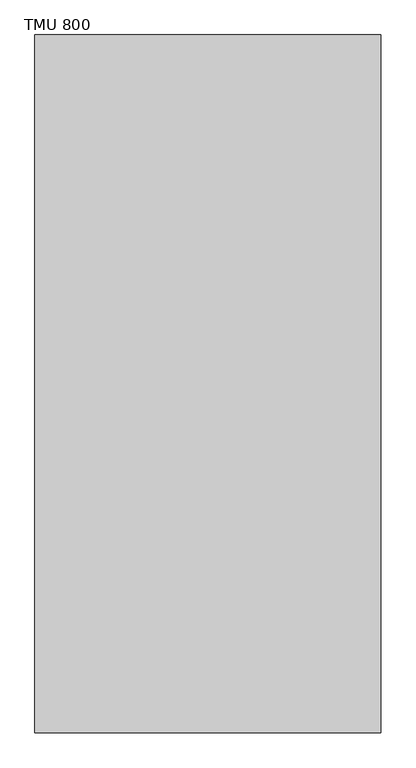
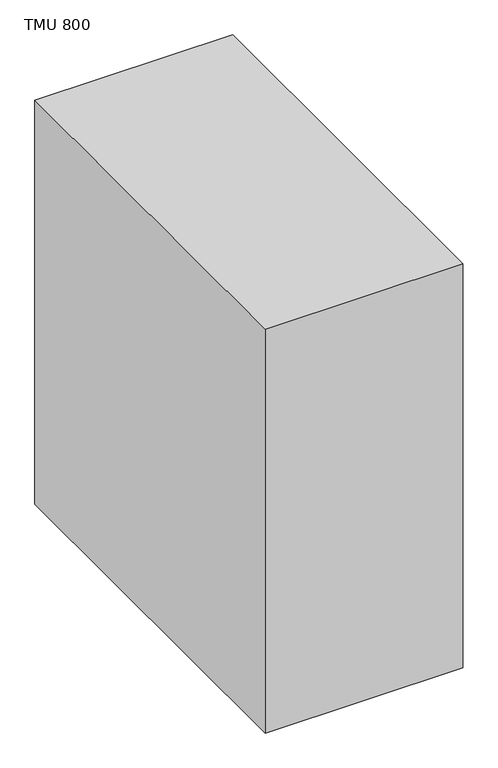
"""IFC4 building model written with IfcOpenShell, lengths in millimetres: unitary equipment geometry, AIC_StratifiedBufferTank_TMU_500-800_r00 : TMU 800."""

from ifc_helpers import new_model, si_unit, point, frame, frame_2d, origin, origin_with_axes, place, context, project, spatial, polyline, circle_curve, trimmed, segment, composite_curve, outline, extrude, source, transform, mapped, element, save
from ifc_brep_helpers import plane_surface, cylinder_surface, advanced_brep


def tmu_800_315551bb(model_context):
    return source(origin(), model_context, "Body", "SolidModel", [
        extrude(outline(polyline([(595.0, -1321.0), (-595.0, -1321.0), (-595.0, 1081.0), (595.0, 1081.0), (595.0, -1321.0)])), origin_with_axes(), (0.0, 0.0, 1.0), 2571.0),
        advanced_brep(
        [(-445.0, 581.0, 2171.0), (-495.0, 531.0, 2171.0), (-495.0, 521.0, 2171.0), (-475.0, 521.0, 2171.0), (-475.0, 516.5, 2171.0), (-495.0, 516.5, 2171.0), (-495.0, -516.5, 2171.0), (-475.0, -516.5, 2171.0), (-475.0, -521.0, 2171.0), (-495.0, -521.0, 2171.0), (-495.0, -531.0, 2171.0), (-445.0, -581.0, 2171.0), (-435.0, -581.0, 2171.0), (-435.0, -561.0, 2171.0), (-430.5, -561.0, 2171.0), (-430.5, -581.0, 2171.0), (430.5, -581.0, 2171.0), (430.5, -561.0, 2171.0), (435.0, -561.0, 2171.0), (435.0, -581.0, 2171.0), (445.0, -581.0, 2171.0), (495.0, -531.0, 2171.0), (495.0, -521.0, 2171.0), (475.0, -521.0, 2171.0), (475.0, -516.5, 2171.0), (495.0, -516.5, 2171.0), (495.0, 516.5, 2171.0), (475.0, 516.5, 2171.0), (475.0, 521.0, 2171.0), (495.0, 521.0, 2171.0), (495.0, 531.0, 2171.0), (445.0, 581.0, 2171.0), (435.0, 581.0, 2171.0), (435.0, 561.0, 2171.0), (430.5, 561.0, 2171.0), (430.5, 581.0, 2171.0), (-430.5, 581.0, 2171.0), (-430.5, 561.0, 2171.0), (-435.0, 561.0, 2171.0), (-435.0, 581.0, 2171.0), (-487.5, 533.5, 3.0), (-447.5, 573.5, 3.0), (-442.0, 573.5, 3.0), (-442.0, 549.0, 3.0), (-407.2040816, 549.0, 3.0), (-407.2040816, -550.0, 3.0), (-28.494898, -550.0, 3.0), (-28.494898, 549.0, 3.0), (28.494898, 549.0, 3.0), (28.494898, -550.0, 3.0), (407.2040816, -550.0, 3.0), (407.2040816, 549.0, 3.0), (442.0, 549.0, 3.0), (442.0, 573.5, 3.0), (447.5, 573.5, 3.0), (487.5, 533.5, 3.0), (487.5, -533.5, 3.0), (447.5, -573.5, 3.0), (-447.5, -573.5, 3.0), (-487.5, -533.5, 3.0), (442.0, 581.0, 133.0), (442.0, 581.0, 98.0), (-442.0, 581.0, 98.0), (-442.0, 581.0, 133.0), (-445.0, 581.0, 133.0), (-435.0, 581.0, 133.0), (-430.5, 581.0, 133.0), (430.5, 581.0, 133.0), (435.0, 581.0, 133.0), (445.0, 581.0, 133.0), (-495.0, 516.5, 1639.0), (-495.0, -516.5, 1639.0), (-495.0, 531.0, 133.0), (-495.0, 521.0, 133.0), (-495.0, -531.0, 133.0), (-495.0, -521.0, 133.0), (-495.0, 516.5, 133.0), (-495.0, -516.5, 133.0), (-495.0, -516.5, 1634.0), (-495.0, 516.5, 1634.0), (-430.5, -581.0, 1817.0), (430.5, -581.0, 1817.0), (-445.0, -581.0, 133.0), (-435.0, -581.0, 133.0), (445.0, -581.0, 133.0), (435.0, -581.0, 133.0), (-430.5, -581.0, 133.0), (430.5, -581.0, 133.0), (430.5, -581.0, 1359.0), (-430.5, -581.0, 1359.0), (-430.5, -581.0, 1812.0), (-430.5, -581.0, 1389.0), (430.5, -581.0, 1389.0), (430.5, -581.0, 1812.0), (495.0, -516.5, 1639.0), (495.0, 516.5, 1639.0), (495.0, 531.0, 133.0), (495.0, 521.0, 133.0), (495.0, -531.0, 133.0), (495.0, -521.0, 133.0), (495.0, -516.5, 133.0), (495.0, 516.5, 133.0), (495.0, 516.5, 1634.0), (495.0, -516.5, 1634.0), (-487.5, 516.5, 133.0), (-487.5, -516.5, 133.0), (-430.5, -573.5, 133.0), (430.5, -573.5, 133.0), (487.5, -516.5, 133.0), (487.5, 516.5, 133.0), (-487.5, -533.5, 133.0), (-447.5, -573.5, 133.0), (-435.0, -573.5, 133.0), (-487.5, -521.0, 133.0), (447.5, -573.5, 133.0), (487.5, -533.5, 133.0), (487.5, -521.0, 133.0), (435.0, -573.5, 133.0), (487.5, 533.5, 133.0), (447.5, 573.5, 133.0), (442.0, 573.5, 133.0), (487.5, 521.0, 133.0), (-442.0, 573.5, 133.0), (-447.5, 573.5, 133.0), (-487.5, 533.5, 133.0), (-487.5, 521.0, 133.0), (-442.0, 573.5, 98.0), (442.0, 573.5, 98.0), (-442.0, 549.0, 98.0), (442.0, 549.0, 98.0), (382.0, 549.0, 98.0), (382.0, -550.0, 98.0), (60.0, -550.0, 98.0), (60.0, 549.0, 98.0), (-60.0, 549.0, 98.0), (-60.0, -550.0, 98.0), (-382.0, -550.0, 98.0), (-382.0, 549.0, 98.0), (-435.0, 561.0, 133.0), (-430.5, 561.0, 133.0), (-475.0, 516.5, 133.0), (-475.0, 521.0, 133.0), (430.5, 561.0, 133.0), (435.0, 561.0, 133.0), (475.0, 521.0, 133.0), (475.0, 516.5, 133.0), (-475.0, -521.0, 133.0), (-475.0, -516.5, 133.0), (-430.5, -561.0, 133.0), (-435.0, -561.0, 133.0), (475.0, -516.5, 133.0), (475.0, -521.0, 133.0), (435.0, -561.0, 133.0), (430.5, -561.0, 133.0), (-475.0, 516.5, 1634.0), (-475.0, -516.5, 1634.0), (-475.0, -516.5, 1639.0), (-475.0, 516.5, 1639.0), (475.0, 516.5, 1639.0), (475.0, -516.5, 1639.0), (475.0, -516.5, 1634.0), (475.0, 516.5, 1634.0), (-430.5, -578.0, 1359.0), (-430.5, -578.0, 1389.0), (-430.5, -578.0, 1812.0), (-430.5, -578.0, 1817.0), (430.5, -578.0, 1817.0), (430.5, -578.0, 1812.0), (430.5, -578.0, 1389.0), (430.5, -578.0, 1359.0)],
        [
            (0, 1, circle_curve(frame((-445.0, 531.0, 2171.0), z_axis=(0.0, 0.0, 1.0), x_axis=(-1.0, 0.0, 0.0)), 50.0)),
            (1, 2),
            (2, 3),
            (3, 4),
            (4, 5),
            (5, 6),
            (6, 7),
            (7, 8),
            (8, 9),
            (9, 10),
            (10, 11, circle_curve(frame((-445.0, -531.0, 2171.0), z_axis=(0.0, 0.0, 1.0), x_axis=(-1.0, 0.0, 0.0)), 50.0)),
            (11, 12),
            (12, 13),
            (13, 14),
            (14, 15),
            (15, 16),
            (16, 17),
            (17, 18),
            (18, 19),
            (19, 20),
            (20, 21, circle_curve(frame((445.0, -531.0, 2171.0), z_axis=(0.0, 0.0, 1.0), x_axis=(-1.0, 0.0, 0.0)), 50.0)),
            (21, 22),
            (22, 23),
            (23, 24),
            (24, 25),
            (25, 26),
            (26, 27),
            (27, 28),
            (28, 29),
            (29, 30),
            (30, 31, circle_curve(frame((445.0, 531.0, 2171.0), z_axis=(0.0, 0.0, 1.0), x_axis=(-1.0, 0.0, 0.0)), 50.0)),
            (31, 32),
            (32, 33),
            (33, 34),
            (34, 35),
            (35, 36),
            (36, 37),
            (37, 38),
            (38, 39),
            (39, 0),
            (40, 41, circle_curve(frame((-447.5, 533.5, 3.0), z_axis=(0.0, 0.0, -1.0), x_axis=(1.0, 0.0, 0.0)), 40.0)),
            (41, 42),
            (42, 43),
            (43, 44),
            (44, 45),
            (45, 46),
            (46, 47),
            (47, 48),
            (48, 49),
            (49, 50),
            (50, 51),
            (51, 52),
            (52, 53),
            (53, 54),
            (54, 55, circle_curve(frame((447.5, 533.5, 3.0), z_axis=(0.0, 0.0, -1.0), x_axis=(1.0, 0.0, 0.0)), 40.0)),
            (55, 56),
            (56, 57, circle_curve(frame((447.5, -533.5, 3.0), z_axis=(0.0, 0.0, -1.0), x_axis=(1.0, 0.0, 0.0)), 40.0)),
            (57, 58),
            (58, 59, circle_curve(frame((-447.5, -533.5, 3.0), z_axis=(0.0, 0.0, -1.0), x_axis=(1.0, 0.0, 0.0)), 40.0)),
            (59, 40),
            (60, 61),
            (61, 62),
            (62, 63),
            (63, 64),
            (64, 0),
            (39, 65),
            (65, 66),
            (66, 36),
            (35, 67),
            (67, 68),
            (68, 32),
            (31, 69),
            (69, 60),
            (5, 70),
            (70, 71),
            (71, 6),
            (1, 72),
            (72, 73),
            (73, 2),
            (74, 10),
            (9, 75),
            (75, 74),
            (76, 77),
            (77, 78),
            (78, 79),
            (79, 76),
            (15, 80),
            (80, 81),
            (81, 16),
            (11, 82),
            (82, 83),
            (83, 12),
            (84, 20),
            (19, 85),
            (85, 84),
            (86, 87),
            (87, 88),
            (88, 89),
            (89, 86),
            (90, 91),
            (91, 92),
            (92, 93),
            (93, 90),
            (25, 94),
            (94, 95),
            (95, 26),
            (96, 30),
            (29, 97),
            (97, 96),
            (21, 98),
            (98, 99),
            (99, 22),
            (100, 101),
            (101, 102),
            (102, 103),
            (103, 100),
            (76, 104),
            (104, 105),
            (105, 77),
            (86, 106),
            (106, 107),
            (107, 87),
            (100, 108),
            (108, 109),
            (109, 101),
            (110, 111, circle_curve(frame((-447.5, -533.5, 133.0), z_axis=(0.0, 0.0, 1.0), x_axis=(1.0, 0.0, 0.0)), 40.0)),
            (111, 112),
            (112, 83),
            (82, 74, circle_curve(frame((-445.0, -531.0, 133.0), z_axis=(0.0, 0.0, -1.0), x_axis=(-1.0, 0.0, 0.0)), 50.0)),
            (75, 113),
            (113, 110),
            (114, 115, circle_curve(frame((447.5, -533.5, 133.0), z_axis=(0.0, 0.0, 1.0), x_axis=(1.0, 0.0, 0.0)), 40.0)),
            (115, 116),
            (116, 99),
            (98, 84, circle_curve(frame((445.0, -531.0, 133.0), z_axis=(0.0, 0.0, -1.0), x_axis=(-1.0, 0.0, 0.0)), 50.0)),
            (85, 117),
            (117, 114),
            (118, 119, circle_curve(frame((447.5, 533.5, 133.0), z_axis=(0.0, 0.0, 1.0), x_axis=(1.0, 0.0, 0.0)), 40.0)),
            (119, 120),
            (120, 60),
            (69, 96, circle_curve(frame((445.0, 531.0, 133.0), z_axis=(0.0, 0.0, -1.0), x_axis=(-1.0, 0.0, 0.0)), 50.0)),
            (97, 121),
            (121, 118),
            (63, 122),
            (122, 123),
            (123, 124, circle_curve(frame((-447.5, 533.5, 133.0), z_axis=(0.0, 0.0, 1.0), x_axis=(1.0, 0.0, 0.0)), 40.0)),
            (124, 125),
            (125, 73),
            (72, 64, circle_curve(frame((-445.0, 531.0, 133.0), z_axis=(0.0, 0.0, -1.0), x_axis=(-1.0, 0.0, 0.0)), 50.0)),
            (123, 41),
            (40, 124),
            (59, 110),
            (113, 105),
            (104, 125),
            (58, 111),
            (57, 114),
            (117, 107),
            (106, 112),
            (56, 115),
            (55, 118),
            (121, 109),
            (108, 116),
            (54, 119),
            (122, 126),
            (126, 42),
            (62, 126),
            (120, 127),
            (127, 61),
            (53, 127),
            (128, 126),
            (127, 129),
            (129, 130),
            (130, 131),
            (131, 132),
            (132, 133),
            (133, 134),
            (134, 135),
            (135, 136),
            (136, 137),
            (137, 128),
            (128, 43),
            (47, 134),
            (133, 48),
            (137, 44),
            (129, 52),
            (51, 130),
            (131, 50),
            (49, 132),
            (135, 46),
            (45, 136),
            (65, 138),
            (138, 139),
            (139, 66),
            (140, 141),
            (141, 125),
            (104, 140),
            (67, 142),
            (142, 143),
            (143, 68),
            (144, 145),
            (145, 109),
            (121, 144),
            (146, 147),
            (147, 105),
            (113, 146),
            (148, 149),
            (149, 112),
            (106, 148),
            (150, 151),
            (151, 116),
            (108, 150),
            (152, 153),
            (153, 107),
            (117, 152),
            (38, 138),
            (37, 139),
            (140, 154),
            (154, 155),
            (155, 147),
            (146, 8),
            (7, 156),
            (156, 157),
            (157, 4),
            (3, 141),
            (157, 70),
            (79, 154),
            (34, 142),
            (33, 143),
            (144, 28),
            (27, 158),
            (158, 159),
            (159, 24),
            (23, 151),
            (150, 160),
            (160, 161),
            (161, 145),
            (95, 158),
            (161, 102),
            (71, 156),
            (155, 78),
            (14, 148),
            (89, 162),
            (162, 163),
            (163, 91),
            (90, 164),
            (164, 165),
            (165, 80),
            (13, 149),
            (159, 94),
            (103, 160),
            (18, 152),
            (17, 153),
            (81, 166),
            (166, 167),
            (167, 93),
            (92, 168),
            (168, 169),
            (169, 88),
            (168, 163),
            (162, 169),
            (166, 165),
            (164, 167),
        ],
        [
            plane_surface(frame((-495.0, 581.0, 2171.0), z_axis=(0.0, 0.0, 1.0), x_axis=(-1.0, 0.0, 0.0))),
            plane_surface(frame((-495.0, 581.0, 3.0), z_axis=(0.0, 0.0, -1.0), x_axis=(1.0, 0.0, 0.0))),
            plane_surface(frame((495.0, 581.0, 2171.0), z_axis=(0.0, 1.0, 0.0), x_axis=(0.0, 0.0, -1.0))),
            plane_surface(frame((-495.0, 581.0, 2171.0), z_axis=(-1.0, 0.0, 0.0), x_axis=(0.0, 0.0, -1.0))),
            plane_surface(frame((-495.0, -581.0, 2171.0), z_axis=(0.0, -1.0, 0.0), x_axis=(0.0, 0.0, -1.0))),
            plane_surface(frame((495.0, -581.0, 2171.0), z_axis=(1.0, 0.0, 0.0), x_axis=(0.0, 0.0, -1.0))),
            plane_surface(frame((-407.5, 533.5, 133.0), z_axis=(0.0, 0.0, -1.0), x_axis=(0.0, -1.0, 0.0))),
            cylinder_surface(frame((-447.5, 533.5, 0.0), z_axis=(0.0, 0.0, -1.0), x_axis=(1.0, 0.0, 0.0)), 40.0),
            plane_surface(frame((-487.5, -533.5, 133.0), z_axis=(-1.0, 0.0, 0.0), x_axis=(0.0, 0.0, -1.0))),
            cylinder_surface(frame((-447.5, -533.5, 0.0), z_axis=(0.0, 0.0, -1.0), x_axis=(1.0, 0.0, 0.0)), 40.0),
            plane_surface(frame((447.5, -573.5, 133.0), z_axis=(0.0, -1.0, 0.0), x_axis=(0.0, 0.0, -1.0))),
            cylinder_surface(frame((447.5, -533.5, 0.0), z_axis=(0.0, 0.0, -1.0), x_axis=(1.0, 0.0, 0.0)), 40.0),
            plane_surface(frame((487.5, 533.5, 133.0), z_axis=(1.0, 0.0, 0.0), x_axis=(0.0, 0.0, -1.0))),
            cylinder_surface(frame((447.5, 533.5, 0.0), z_axis=(0.0, 0.0, -1.0), x_axis=(1.0, 0.0, 0.0)), 40.0),
            plane_surface(frame((-447.5, 573.5, 133.0), z_axis=(-2.879442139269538e-12, 1.0, 0.0), x_axis=(0.0, 0.0, -1.0))),
            plane_surface(frame((-442.0, 573.5, 133.0), z_axis=(-1.0, 0.0, 0.0), x_axis=(0.0, 0.0, -1.0))),
            plane_surface(frame((442.0, 581.0, 133.0), z_axis=(1.0, 0.0, 0.0), x_axis=(0.0, 0.0, -1.0))),
            plane_surface(frame((442.0, 573.5, 133.0), z_axis=(2.37492449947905e-12, 1.0, 0.0), x_axis=(0.0, 0.0, -1.0))),
            plane_surface(frame((-442.0, 581.0, 98.0), z_axis=(0.0, 0.0, -1.0), x_axis=(-1.0, 0.0, 0.0))),
            plane_surface(frame((-442.0, 581.0, 98.0), z_axis=(1.0, 0.0, 0.0), x_axis=(0.0, 0.0, -1.0))),
            plane_surface(frame((-442.0, 549.0, 98.0), z_axis=(0.0, 1.0, 0.0), x_axis=(0.0, 0.0, -1.0))),
            plane_surface(frame((442.0, 549.0, 98.0), z_axis=(-1.0, 0.0, 0.0), x_axis=(0.0, 0.0, -1.0))),
            plane_surface(frame((408.0, -550.0, 0.0), z_axis=(0.0, 1.0, 0.0), x_axis=(-0.2564346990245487, 0.0, 0.966561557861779))),
            plane_surface(frame((382.0, 573.5, 98.0), z_axis=(-0.966561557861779, 0.0, -0.2564346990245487), x_axis=(0.0, -1.0, 0.0))),
            plane_surface(frame((27.5, 573.5, 0.0), z_axis=(0.9491664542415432, 0.0, -0.3147745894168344), x_axis=(0.0, -1.0, 0.0))),
            plane_surface(frame((-60.0, 573.5, 98.0), z_axis=(-0.9491664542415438, 0.0, -0.31477458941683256), x_axis=(0.0, -1.0, 0.0))),
            plane_surface(frame((-408.0, 573.5, 0.0), z_axis=(0.9665615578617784, 0.0, -0.2564346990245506), x_axis=(0.0, -1.0, 0.0))),
            cylinder_surface(frame((-445.0, 531.0, 133.0), z_axis=(0.0, 0.0, -1.0), x_axis=(-1.0, 0.0, 0.0)), 50.0),
            cylinder_surface(frame((445.0, 531.0, 133.0), z_axis=(0.0, 0.0, -1.0), x_axis=(-1.0, 0.0, 0.0)), 50.0),
            cylinder_surface(frame((-445.0, -531.0, 133.0), z_axis=(0.0, 0.0, -1.0), x_axis=(-1.0, 0.0, 0.0)), 50.0),
            cylinder_surface(frame((445.0, -531.0, 133.0), z_axis=(0.0, 0.0, -1.0), x_axis=(-1.0, 0.0, 0.0)), 50.0),
            plane_surface(frame((-435.0, 581.0, 133.0), z_axis=(0.0, 0.0, 1.0), x_axis=(1.0, 0.0, 0.0))),
            plane_surface(frame((-435.0, 581.0, 2171.0), z_axis=(1.0, 0.0, 0.0), x_axis=(0.0, 0.0, -1.0))),
            plane_surface(frame((-435.0, 561.0, 2171.0), z_axis=(0.0, 1.0, 0.0), x_axis=(0.0, 0.0, -1.0))),
            plane_surface(frame((-430.5, 561.0, 2171.0), z_axis=(-1.0, 0.0, 0.0), x_axis=(0.0, 0.0, -1.0))),
            plane_surface(frame((-475.0, 516.5, 2171.0), z_axis=(-1.0, 0.0, 0.0), x_axis=(0.0, 0.0, -1.0))),
            plane_surface(frame((-475.0, 521.0, 2171.0), z_axis=(0.0, -1.0, 0.0), x_axis=(0.0, 0.0, -1.0))),
            plane_surface(frame((-495.0, 516.5, 2171.0), z_axis=(0.0, 1.0, 0.0), x_axis=(0.0, 0.0, -1.0))),
            plane_surface(frame((430.5, 581.0, 2171.0), z_axis=(1.0, 0.0, 0.0), x_axis=(0.0, 0.0, -1.0))),
            plane_surface(frame((430.5, 561.0, 2171.0), z_axis=(0.0, 1.0, 0.0), x_axis=(0.0, 0.0, -1.0))),
            plane_surface(frame((435.0, 561.0, 2171.0), z_axis=(-1.0, 0.0, 0.0), x_axis=(0.0, 0.0, -1.0))),
            plane_surface(frame((475.0, 521.0, 2171.0), z_axis=(1.0, 0.0, 0.0), x_axis=(0.0, 0.0, -1.0))),
            plane_surface(frame((475.0, 516.5, 2171.0), z_axis=(0.0, 1.0, 0.0), x_axis=(0.0, 0.0, -1.0))),
            plane_surface(frame((495.0, 521.0, 2171.0), z_axis=(0.0, -1.0, 0.0), x_axis=(0.0, 0.0, -1.0))),
            plane_surface(frame((-475.0, -516.5, 2171.0), z_axis=(0.0, -1.0, 0.0), x_axis=(0.0, 0.0, -1.0))),
            plane_surface(frame((-495.0, -521.0, 2171.0), z_axis=(0.0, 1.0, 0.0), x_axis=(0.0, 0.0, -1.0))),
            plane_surface(frame((-430.5, -581.0, 2171.0), z_axis=(-1.0, 0.0, 0.0), x_axis=(0.0, 0.0, -1.0))),
            plane_surface(frame((-430.5, -561.0, 2171.0), z_axis=(0.0, -1.0, 0.0), x_axis=(0.0, 0.0, -1.0))),
            plane_surface(frame((-435.0, -561.0, 2171.0), z_axis=(1.0, 0.0, 0.0), x_axis=(0.0, 0.0, -1.0))),
            plane_surface(frame((475.0, -521.0, 2171.0), z_axis=(0.0, 1.0, 0.0), x_axis=(0.0, 0.0, -1.0))),
            plane_surface(frame((495.0, -516.5, 2171.0), z_axis=(0.0, -1.0, 0.0), x_axis=(0.0, 0.0, -1.0))),
            plane_surface(frame((435.0, -581.0, 2171.0), z_axis=(-1.0, 0.0, 0.0), x_axis=(0.0, 0.0, -1.0))),
            plane_surface(frame((435.0, -561.0, 2171.0), z_axis=(0.0, -1.0, 0.0), x_axis=(0.0, 0.0, -1.0))),
            plane_surface(frame((430.5, -561.0, 2171.0), z_axis=(1.0, 0.0, 0.0), x_axis=(0.0, 0.0, -1.0))),
            plane_surface(frame((-430.5, -578.0, 1389.0), z_axis=(0.0, -1.0, 0.0), x_axis=(1.0, 0.0, 0.0))),
            plane_surface(frame((430.5, -581.0, 1389.0), z_axis=(0.0, 0.0, -1.0), x_axis=(0.0, 1.0, 0.0))),
            plane_surface(frame((-430.5, -581.0, 1359.0), z_axis=(0.0, 0.0, 1.0), x_axis=(0.0, 1.0, 0.0))),
            plane_surface(frame((430.5, -581.0, 1817.0), z_axis=(0.0, 0.0, -1.0), x_axis=(0.0, 1.0, 0.0))),
            plane_surface(frame((-430.5, -581.0, 1812.0), z_axis=(0.0, 0.0, 1.0), x_axis=(0.0, 1.0, 0.0))),
            plane_surface(frame((475.0, -516.5, 1634.0), z_axis=(0.0, 0.0, 1.0), x_axis=(0.0, 1.0, 0.0))),
            plane_surface(frame((495.0, -516.5, 1639.0), z_axis=(0.0, 0.0, -1.0), x_axis=(0.0, 1.0, 0.0))),
            plane_surface(frame((-475.0, -516.5, 1639.0), z_axis=(0.0, 0.0, -1.0), x_axis=(0.0, 1.0, 0.0))),
            plane_surface(frame((-495.0, -516.5, 1634.0), z_axis=(0.0, 0.0, 1.0), x_axis=(0.0, 1.0, 0.0))),
        ],
        [
            (0, [[1, 2, 3, 4, 5, 6, 7, 8, 9, 10, 11, 12, 13, 14, 15, 16, 17, 18, 19, 20, 21, 22, 23, 24, 25, 26, 27, 28, 29, 30, 31, 32, 33, 34, 35, 36, 37, 38, 39, 40]]),
            (1, [[41, 42, 43, 44, 45, 46, 47, 48, 49, 50, 51, 52, 53, 54, 55, 56, 57, 58, 59, 60]]),
            (2, [[61, 62, 63, 64, 65, -40, 66, 67, 68, -36, 69, 70, 71, -32, 72, 73]]),
            (3, [[-6, 74, 75, 76]]),
            (3, [[77, 78, 79, -2]]),
            (3, [[80, -10, 81, 82]]),
            (3, [[83, 84, 85, 86]]),
            (4, [[-16, 87, 88, 89]]),
            (4, [[90, 91, 92, -12]]),
            (4, [[93, -20, 94, 95]]),
            (4, [[96, 97, 98, 99]]),
            (4, [[100, 101, 102, 103]]),
            (5, [[-26, 104, 105, 106]]),
            (5, [[107, -30, 108, 109]]),
            (5, [[110, 111, 112, -22]]),
            (5, [[113, 114, 115, 116]]),
            (6, [[-83, 117, 118, 119]]),
            (6, [[-96, 120, 121, 122]]),
            (6, [[-113, 123, 124, 125]]),
            (6, [[126, 127, 128, -91, 129, -82, 130, 131]]),
            (6, [[132, 133, 134, -111, 135, -95, 136, 137]]),
            (6, [[138, 139, 140, -73, 141, -109, 142, 143]]),
            (6, [[144, 145, 146, 147, 148, -78, 149, -64]]),
            (7, [[-146, 150, -41, 151]]),
            (8, [[-151, -60, 152, -131, 153, -118, 154, -147]]),
            (9, [[-126, -152, -59, 155]]),
            (10, [[-155, -58, 156, -137, 157, -121, 158, -127]]),
            (11, [[-132, -156, -57, 159]]),
            (12, [[-159, -56, 160, -143, 161, -124, 162, -133]]),
            (13, [[-138, -160, -55, 163]]),
            (14, [[-145, 164, 165, -42, -150]]),
            (15, [[-144, -63, 166, -164]]),
            (16, [[-140, 167, 168, -61]]),
            (17, [[-139, -163, -54, 169, -167]]),
            (18, [[170, -166, -62, -168, 171, 172, 173, 174, 175, 176, 177, 178, 179, 180]]),
            (19, [[-170, 181, -43, -165]]),
            (20, [[-48, 182, -176, 183]]),
            (20, [[-181, -180, 184, -44]]),
            (20, [[185, -52, 186, -172]]),
            (21, [[-171, -169, -53, -185]]),
            (22, [[-174, 187, -50, 188]]),
            (22, [[-178, 189, -46, 190]]),
            (23, [[-173, -186, -51, -187]]),
            (24, [[-175, -188, -49, -183]]),
            (25, [[-177, -182, -47, -189]]),
            (26, [[-179, -190, -45, -184]]),
            (27, [[-1, -65, -149, -77]]),
            (28, [[-31, -107, -141, -72]]),
            (29, [[-11, -80, -129, -90]]),
            (30, [[-21, -93, -135, -110]]),
            (31, [[191, 192, 193, -67]]),
            (31, [[194, 195, -154, 196]]),
            (31, [[197, 198, 199, -70]]),
            (31, [[200, 201, -161, 202]]),
            (31, [[203, 204, -153, 205]]),
            (31, [[206, 207, -158, 208]]),
            (31, [[209, 210, -162, 211]]),
            (31, [[212, 213, -157, 214]]),
            (32, [[-191, -66, -39, 215]]),
            (33, [[-192, -215, -38, 216]]),
            (34, [[-193, -216, -37, -68]]),
            (35, [[-194, 217, 218, 219, -203, 220, -8, 221, 222, 223, -4, 224]]),
            (36, [[-224, -3, -79, -148, -195]]),
            (37, [[-5, -223, 225, -74]]),
            (37, [[-196, -117, -86, 226, -217]]),
            (38, [[-197, -69, -35, 227]]),
            (39, [[-198, -227, -34, 228]]),
            (40, [[-199, -228, -33, -71]]),
            (41, [[-200, 229, -28, 230, 231, 232, -24, 233, -209, 234, 235, 236]]),
            (42, [[-27, -106, 237, -230]]),
            (42, [[-201, -236, 238, -114, -125]]),
            (43, [[-229, -202, -142, -108, -29]]),
            (44, [[-7, -76, 239, -221]]),
            (44, [[-204, -219, 240, -84, -119]]),
            (45, [[-220, -205, -130, -81, -9]]),
            (46, [[241, -208, -120, -99, 242, 243, 244, -100, 245, 246, 247, -87, -15]]),
            (47, [[-206, -241, -14, 248]]),
            (48, [[-248, -13, -92, -128, -207]]),
            (49, [[-233, -23, -112, -134, -210]]),
            (50, [[-25, -232, 249, -104]]),
            (50, [[-211, -123, -116, 250, -234]]),
            (51, [[251, -214, -136, -94, -19]]),
            (52, [[-212, -251, -18, 252]]),
            (53, [[-252, -17, -89, 253, 254, 255, -102, 256, 257, 258, -97, -122, -213]]),
            (54, [[259, -243, 260, -257]]),
            (54, [[261, -246, 262, -254]]),
            (55, [[-259, -256, -101, -244]]),
            (56, [[-260, -242, -98, -258]]),
            (57, [[-261, -253, -88, -247]]),
            (58, [[-262, -245, -103, -255]]),
            (59, [[-235, -250, -115, -238]]),
            (60, [[-231, -237, -105, -249]]),
            (61, [[-222, -239, -75, -225]]),
            (62, [[-218, -226, -85, -240]]),
        ],
    ),
        extrude(outline(composite_curve([segment(trimmed(circle_curve(frame_2d((1483.5, 397.5)), 14.5), [point((1483.5, 412.0))], [point((1483.5, 383.0))], False, "CARTESIAN"), True, "CONTINUOUS"), segment(trimmed(circle_curve(frame_2d((1483.5, 397.5)), 14.5), [point((1483.5, 383.0))], [point((1483.5, 412.0))], False, "CARTESIAN"), True, "CONTINUOUS")], self_intersect=False)), frame((0.0, 581.0, 0.0), z_axis=(0.0, 1.0, 0.0), x_axis=(0.0, 0.0, 1.0)), (0.0, 0.0, 1.0), 30.0),
        extrude(outline(composite_curve([segment(trimmed(circle_curve(frame_2d((443.0, 0.0)), 40.0), [point((443.0, 40.0))], [point((443.0, -40.0))], False, "CARTESIAN"), True, "CONTINUOUS"), segment(trimmed(circle_curve(frame_2d((443.0, 0.0)), 40.0), [point((443.0, -40.0))], [point((443.0, 40.0))], False, "CARTESIAN"), True, "CONTINUOUS")], self_intersect=False), holes=[composite_curve([segment(trimmed(circle_curve(frame_2d((443.0, 0.0)), 36.05), [point((443.0, 36.05))], [point((443.0, -36.05))], True, "CARTESIAN"), True, "CONTINUOUS"), segment(trimmed(circle_curve(frame_2d((443.0, 0.0)), 36.05), [point((443.0, -36.05))], [point((443.0, 36.05))], True, "CARTESIAN"), True, "CONTINUOUS")], self_intersect=False)]), frame((0.0, 581.0, 0.0), z_axis=(0.0, 1.0, 0.0), x_axis=(0.0, 0.0, 1.0)), (0.0, 0.0, 1.0), 30.0),
        extrude(outline(composite_curve([segment(trimmed(circle_curve(frame_2d((803.0, 0.0)), 40.0), [point((803.0, 40.0))], [point((803.0, -40.0))], False, "CARTESIAN"), True, "CONTINUOUS"), segment(trimmed(circle_curve(frame_2d((803.0, 0.0)), 40.0), [point((803.0, -40.0))], [point((803.0, 40.0))], False, "CARTESIAN"), True, "CONTINUOUS")], self_intersect=False), holes=[composite_curve([segment(trimmed(circle_curve(frame_2d((803.0, 0.0)), 36.05), [point((803.0, 36.05))], [point((803.0, -36.05))], True, "CARTESIAN"), True, "CONTINUOUS"), segment(trimmed(circle_curve(frame_2d((803.0, 0.0)), 36.05), [point((803.0, -36.05))], [point((803.0, 36.05))], True, "CARTESIAN"), True, "CONTINUOUS")], self_intersect=False)]), frame((0.0, 581.0, 0.0), z_axis=(0.0, 1.0, 0.0), x_axis=(0.0, 0.0, 1.0)), (0.0, 0.0, 1.0), 30.0),
        extrude(outline(composite_curve([segment(trimmed(circle_curve(frame_2d((1068.0, 0.0)), 25.0), [point((1068.0, 25.0))], [point((1068.0, -25.0))], False, "CARTESIAN"), True, "CONTINUOUS"), segment(trimmed(circle_curve(frame_2d((1068.0, 0.0)), 25.0), [point((1068.0, -25.0))], [point((1068.0, 25.0))], False, "CARTESIAN"), True, "CONTINUOUS")], self_intersect=False), holes=[composite_curve([segment(trimmed(circle_curve(frame_2d((1068.0, 0.0)), 22.15), [point((1068.0, 22.15))], [point((1068.0, -22.15))], True, "CARTESIAN"), True, "CONTINUOUS"), segment(trimmed(circle_curve(frame_2d((1068.0, 0.0)), 22.15), [point((1068.0, -22.15))], [point((1068.0, 22.15))], True, "CARTESIAN"), True, "CONTINUOUS")], self_intersect=False)]), frame((0.0, 581.0, 0.0), z_axis=(0.0, 1.0, 0.0), x_axis=(0.0, 0.0, 1.0)), (0.0, 0.0, 1.0), 30.0),
        extrude(outline(composite_curve([segment(trimmed(circle_curve(frame_2d((1293.0, 0.0)), 40.0), [point((1293.0, 40.0))], [point((1293.0, -40.0))], False, "CARTESIAN"), True, "CONTINUOUS"), segment(trimmed(circle_curve(frame_2d((1293.0, 0.0)), 40.0), [point((1293.0, -40.0))], [point((1293.0, 40.0))], False, "CARTESIAN"), True, "CONTINUOUS")], self_intersect=False), holes=[composite_curve([segment(trimmed(circle_curve(frame_2d((1293.0, 0.0)), 36.05), [point((1293.0, 36.05))], [point((1293.0, -36.05))], True, "CARTESIAN"), True, "CONTINUOUS"), segment(trimmed(circle_curve(frame_2d((1293.0, 0.0)), 36.05), [point((1293.0, -36.05))], [point((1293.0, 36.05))], True, "CARTESIAN"), True, "CONTINUOUS")], self_intersect=False)]), frame((0.0, 581.0, 0.0), z_axis=(0.0, 1.0, 0.0), x_axis=(0.0, 0.0, 1.0)), (0.0, 0.0, 1.0), 30.0),
        extrude(outline(composite_curve([segment(trimmed(circle_curve(frame_2d((1483.0, 0.0)), 40.0), [point((1483.0, 40.0))], [point((1483.0, -40.0))], False, "CARTESIAN"), True, "CONTINUOUS"), segment(trimmed(circle_curve(frame_2d((1483.0, 0.0)), 40.0), [point((1483.0, -40.0))], [point((1483.0, 40.0))], False, "CARTESIAN"), True, "CONTINUOUS")], self_intersect=False), holes=[composite_curve([segment(trimmed(circle_curve(frame_2d((1483.0, 0.0)), 36.05), [point((1483.0, 36.05))], [point((1483.0, -36.05))], True, "CARTESIAN"), True, "CONTINUOUS"), segment(trimmed(circle_curve(frame_2d((1483.0, 0.0)), 36.05), [point((1483.0, -36.05))], [point((1483.0, 36.05))], True, "CARTESIAN"), True, "CONTINUOUS")], self_intersect=False)]), frame((0.0, 581.0, 0.0), z_axis=(0.0, 1.0, 0.0), x_axis=(0.0, 0.0, 1.0)), (0.0, 0.0, 1.0), 30.0),
        extrude(outline(composite_curve([segment(trimmed(circle_curve(frame_2d((1608.0, 0.0)), 25.0), [point((1608.0, -25.0))], [point((1608.0, 25.0))], False, "CARTESIAN"), True, "CONTINUOUS"), segment(trimmed(circle_curve(frame_2d((1608.0, 0.0)), 25.0), [point((1608.0, 25.0))], [point((1608.0, -25.0))], False, "CARTESIAN"), True, "CONTINUOUS")], self_intersect=False), holes=[composite_curve([segment(trimmed(circle_curve(frame_2d((1608.0, 0.0)), 22.15), [point((1608.0, -22.15))], [point((1608.0, 22.15))], True, "CARTESIAN"), True, "CONTINUOUS"), segment(trimmed(circle_curve(frame_2d((1608.0, 0.0)), 22.15), [point((1608.0, 22.15))], [point((1608.0, -22.15))], True, "CARTESIAN"), True, "CONTINUOUS")], self_intersect=False)]), frame((0.0, 581.0, 0.0), z_axis=(0.0, 1.0, 0.0), x_axis=(0.0, 0.0, 1.0)), (0.0, 0.0, 1.0), 30.0),
        extrude(outline(composite_curve([segment(trimmed(circle_curve(frame_2d((1743.0, 0.0)), 40.0), [point((1743.0, -40.0))], [point((1743.0, 40.0))], False, "CARTESIAN"), True, "CONTINUOUS"), segment(trimmed(circle_curve(frame_2d((1743.0, 0.0)), 40.0), [point((1743.0, 40.0))], [point((1743.0, -40.0))], False, "CARTESIAN"), True, "CONTINUOUS")], self_intersect=False), holes=[composite_curve([segment(trimmed(circle_curve(frame_2d((1743.0, 0.0)), 36.05), [point((1743.0, -36.05))], [point((1743.0, 36.05))], True, "CARTESIAN"), True, "CONTINUOUS"), segment(trimmed(circle_curve(frame_2d((1743.0, 0.0)), 36.05), [point((1743.0, 36.05))], [point((1743.0, -36.05))], True, "CARTESIAN"), True, "CONTINUOUS")], self_intersect=False)]), frame((0.0, 581.0, 0.0), z_axis=(0.0, 1.0, 0.0), x_axis=(0.0, 0.0, 1.0)), (0.0, 0.0, 1.0), 30.0),
        extrude(outline(composite_curve([segment(trimmed(circle_curve(frame_2d((2060.0, -125.0)), 25.0), [point((2060.0, -150.0))], [point((2060.0, -100.0))], False, "CARTESIAN"), True, "CONTINUOUS"), segment(trimmed(circle_curve(frame_2d((2060.0, -125.0)), 25.0), [point((2060.0, -100.0))], [point((2060.0, -150.0))], False, "CARTESIAN"), True, "CONTINUOUS")], self_intersect=False), holes=[composite_curve([segment(trimmed(circle_curve(frame_2d((2060.0, -125.0)), 22.15), [point((2060.0, -147.15))], [point((2060.0, -102.85))], True, "CARTESIAN"), True, "CONTINUOUS"), segment(trimmed(circle_curve(frame_2d((2060.0, -125.0)), 22.15), [point((2060.0, -102.85))], [point((2060.0, -147.15))], True, "CARTESIAN"), True, "CONTINUOUS")], self_intersect=False)]), frame((0.0, 581.0, 0.0), z_axis=(0.0, 1.0, 0.0), x_axis=(0.0, 0.0, 1.0)), (0.0, 0.0, 1.0), 30.0),
        extrude(outline(composite_curve([segment(trimmed(circle_curve(frame_2d((2060.0, 125.0)), 40.0), [point((2060.0, 85.0))], [point((2060.0, 165.0))], False, "CARTESIAN"), True, "CONTINUOUS"), segment(trimmed(circle_curve(frame_2d((2060.0, 125.0)), 40.0), [point((2060.0, 165.0))], [point((2060.0, 85.0))], False, "CARTESIAN"), True, "CONTINUOUS")], self_intersect=False), holes=[composite_curve([segment(trimmed(circle_curve(frame_2d((2060.0, 125.0)), 36.05), [point((2060.0, 88.95))], [point((2060.0, 161.05))], True, "CARTESIAN"), True, "CONTINUOUS"), segment(trimmed(circle_curve(frame_2d((2060.0, 125.0)), 36.05), [point((2060.0, 161.05))], [point((2060.0, 88.95))], True, "CARTESIAN"), True, "CONTINUOUS")], self_intersect=False)]), frame((0.0, 581.0, 0.0), z_axis=(0.0, 1.0, 0.0), x_axis=(0.0, 0.0, 1.0)), (0.0, 0.0, 1.0), 30.0),
    ])


if __name__ == "__main__":
    model = new_model("IFC4")
    model_context = context("Model", 3, world=origin())
    ifc_project = project(units=[si_unit("LENGTHUNIT", "METRE", prefix="MILLI")], contexts=[model_context])
    site = spatial("IfcSite", under=ifc_project)
    building = spatial("IfcBuilding", under=site)
    placement = place(None, origin())
    tmu_800_shape = tmu_800_315551bb(model_context)
    element("IfcUnitaryEquipment", 1, ObjectType="AIC_StratifiedBufferTank_TMU_500-800_r00 : TMU 800", at=placement, inside=building, context=model_context, shape_type="MappedRepresentation", body=[
        mapped(tmu_800_shape, transform((0.0, 0.0, 0.0), x_axis=(1.0, 0.0, 0.0), y_axis=(0.0, 1.0, 0.0), z_axis=(0.0, 0.0, 1.0))),
    ])
    save(model, "model.ifc")
